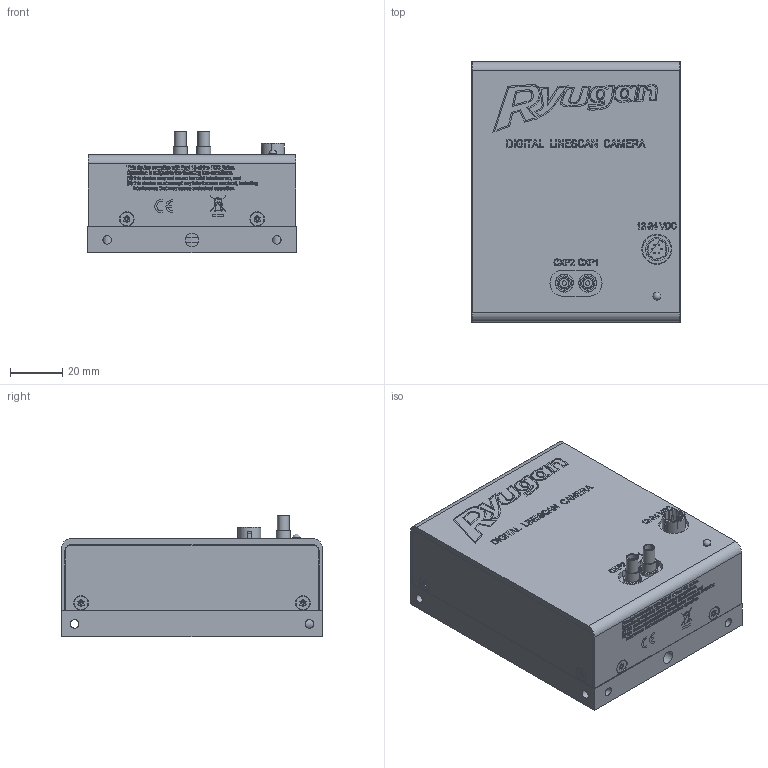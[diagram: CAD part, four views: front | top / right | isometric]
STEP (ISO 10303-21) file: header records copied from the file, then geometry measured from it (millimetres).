
FILE_DESCRIPTION (( 'STEP AP203' ), '1' );
FILE_NAME ('C7-1035-00-48／RMSL8K100CP外形図.STEP', '2023-09-23T05:33:18', ( '' ), ( '' ), 'SwSTEP 2.0', 'SolidWorks 2020', '' );
FILE_SCHEMA (( 'CONFIG_CONTROL_DESIGN' ));
Products named in the file (1): C7-1035-00-48／RMSL8K100CP外形図
Bounding box: 80 x 100 x 46.75 mm (x, y, z)
Surface area: 38024.4 mm2 (no closed solid volume)
Topology: 0 solids, 396 shells, 930 faces, 9695 edges, 9111 vertices
Faces by surface type: plane 701, cylinder 153, bspline 58, cone 17, sphere 1
Full cylindrical faces by diameter (mm): 0.5 x6, 0.8 x2, 1 x8, 3 x1, 3.3 x12, 3.5 x2, 4.5 x2, 5.105 x1, 5.5 x2, 7 x2, 8.85 x1, 11.5 x1, 72 x1, 74 x1
Entity records: 134145 total; most frequent: CARTESIAN_POINT 75633, ORIENTED_EDGE 10630, EDGE_CURVE 9632, VERTEX_POINT 9101, DIRECTION 7731, VECTOR 5101, LINE 5101, B_SPLINE_CURVE_WITH_KNOTS 4077
